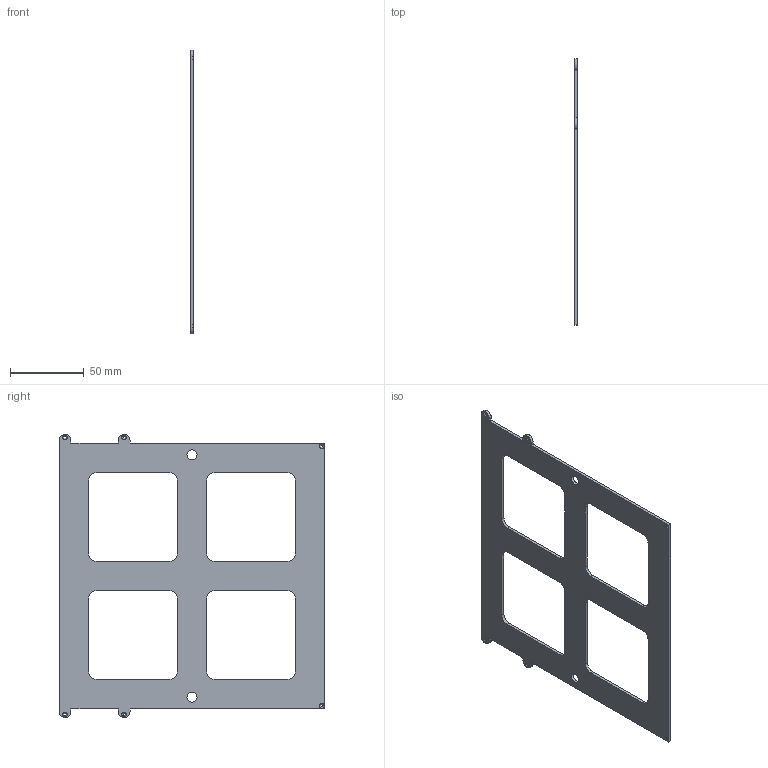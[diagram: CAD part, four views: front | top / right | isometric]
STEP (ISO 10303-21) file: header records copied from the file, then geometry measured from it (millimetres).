
FILE_DESCRIPTION(('FreeCAD Model'),'2;1');
FILE_NAME('Open CASCADE Shape Model','2025-04-01T12:40:18',(''),(''), 'Open CASCADE STEP processor 7.6','FreeCAD','Unknown');
FILE_SCHEMA(('CONFIG_CONTROL_DESIGN','SHAPE_APPEARANCE_LAYER_MIM'));
Length unit declared in the file: millimetre
Products named in the file (1): OuterVerticalCCDAssemblyFrame
Bounding box: 2 x 180 x 192 mm (x, y, z)
Volume: 36318.2 mm3; surface area: 39828.3 mm2
Topology: 1 solids, 1 shells, 64 faces, 188 edges, 126 vertices
Faces by surface type: plane 30, cylinder 28, cone 6
Full cylindrical faces by diameter (mm): 1.7 x6, 6.8 x2
Entity records: 2258 total; most frequent: DIRECTION 388, CARTESIAN_POINT 379, ORIENTED_EDGE 376, EDGE_CURVE 188, AXIS2_PLACEMENT_3D 135, VERTEX_POINT 126, LINE 118, VECTOR 118
